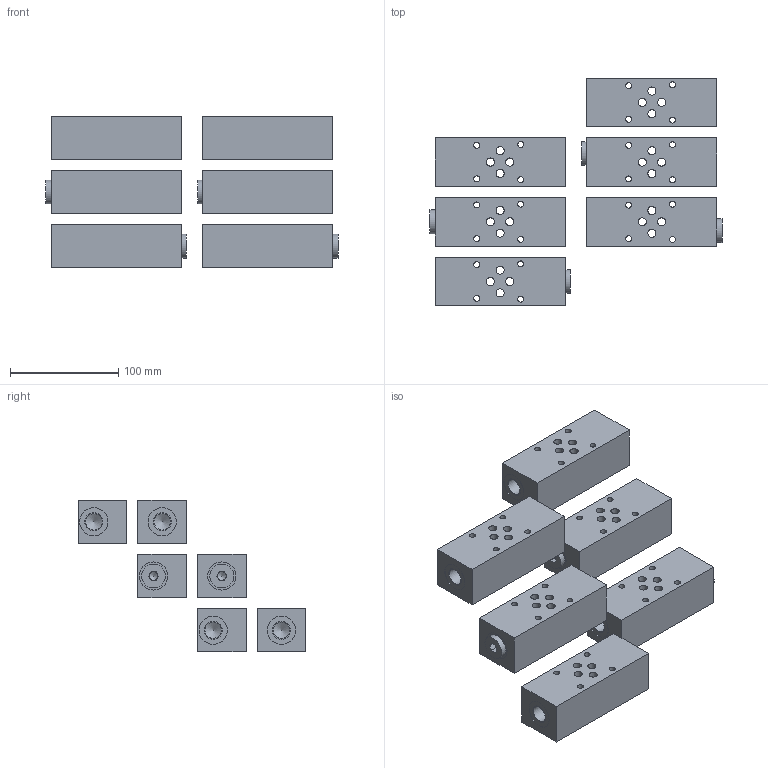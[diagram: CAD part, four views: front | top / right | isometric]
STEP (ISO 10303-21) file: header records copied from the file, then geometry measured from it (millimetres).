
FILE_DESCRIPTION(('Bauteilbeschreibung','HiCAD-Model','HiCAD-STEP-TRANSLATION','Bauteilbeschreibung'),'2;1');
FILE_NAME('C:/_EIGENE_DATEN/DXF_STEP/ASGK_6_3808.STP','2008-09-15T11:16:30+00:00',('Konstrukteur'),('Konstrukteur Firma GmbH'),' HiCAD neXt 2007, Step 3.1.1212.3C ','HiCAD neXt 2007','confidential');
FILE_SCHEMA(('AUTOMOTIVE_DESIGN { 1 2 10303 214 0 1 1 1 }'));
Length unit declared in the file: millimetre
Products named in the file (53): ASGK_6_3808; ASGKA6; A8D12664; A5708F27; A5708F270; DIN_ISO_228_1; DIN0ISO022801; AB70C137; AB70C1370; DIN0ISO0228010; ED; ASGKB6; AF17DE8A; A5708F271; A5708F272; DIN0ISO0228011; DIN0ISO0228012; AB70C1371; AB70C1372; DIN0ISO0228013; ED0; ASGKAB6; DCF46B06; A5708F273; A5708F274; DIN0ISO0228014; DIN0ISO0228015; ASGKT6; AF49A468; AB70C1373; AB70C1374; DIN0ISO0228016; ED1; CFCF649F; CFCF649F0; DIN0ISO0228017; DIN0ISO0228018; ASGKP6; A51E8770; AB70C1375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
Assembly tree (52 placements, depth 5):
  ASGK_6_3808
    ASGKA6
      A8D12664
        A5708F27
        A5708F270
          DIN_ISO_228_1
          DIN0ISO022801
        AB70C137
        AB70C1370
          DIN0ISO0228010
          ED
    ASGKB6
      AF17DE8A
        A5708F271
        A5708F272
          DIN0ISO0228011
          DIN0ISO0228012
        AB70C1371
        AB70C1372
          DIN0ISO0228013
          ED0
    ASGKAB6
      DCF46B06
        A5708F273
        A5708F274
          DIN0ISO0228014
          DIN0ISO0228015
    ASGKT6
      AF49A468
        AB70C1373
        AB70C1374
          DIN0ISO0228016
          ED1
        CFCF649F
        CFCF649F0
          DIN0ISO0228017
          DIN0ISO0228018
    ASGKP6
      A51E8770
        AB70C1375
        AB70C1376
          DIN0ISO0228019
          ED2
        CFCF649F1
        CFCF649F2
          DIN0ISO02280110
          DIN0ISO02280111
    ASGKPT6
      A5AFEE06
        CFCF649F3
        CFCF649F4
          DIN0ISO02280112
          DIN0ISO02280113
Bounding box: 269.4 x 210 x 140 mm (x, y, z)
Volume: 1197296.9 mm3; surface area: 221584.5 mm2
Topology: 30 solids, 30 shells, 376 faces, 888 edges, 620 vertices
Faces by surface type: plane 180, cylinder 164, cone 32
Full cylindrical faces by diameter (mm): 5.5 x24, 7.5 x24, 12.5 x24, 14.6 x8, 14.95 x8, 15.25 x24, 16.662 x28, 19.05 x8, 22 x4, 26 x12
Entity records: 10037 total; most frequent: DIRECTION 1840, CARTESIAN_POINT 1472, ORIENTED_EDGE 1048, AXIS2_PLACEMENT_3D 836, EDGE_LOOP 756, EDGE_CURVE 524, VERTEX_POINT 468, FACE_BOUND 396
